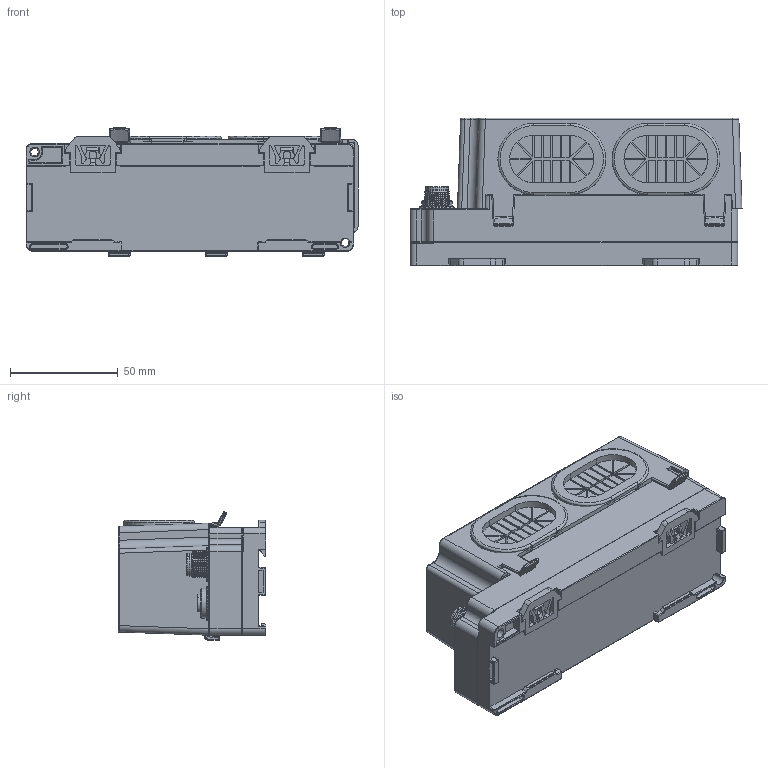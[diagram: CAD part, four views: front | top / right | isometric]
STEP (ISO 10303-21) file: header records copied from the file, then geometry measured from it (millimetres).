
FILE_DESCRIPTION((''),'2;1');
FILE_NAME('IOL5B','2026-05-28T16:28:42',('Administrator'),(''),'CREO PARAMETRIC BY PTC INC, 2022073','CREO PARAMETRIC BY PTC INC, 2022073','');
FILE_SCHEMA(('AUTOMOTIVE_DESIGN { 1 0 10303 214 1 1 1 1 }'));
Products named in the file (1): IOL5B
Bounding box: 154 x 68.5 x 59.9 mm (x, y, z)
Surface area: 84147.6 mm2 (no closed solid volume)
Topology: 0 solids, 89 shells, 1299 faces, 4253 edges, 3048 vertices
Faces by surface type: plane 569, cylinder 476, bspline 72, sphere 63, cone 61, torus 58
Entity records: 66164 total; most frequent: CARTESIAN_POINT 23209, DIRECTION 7221, ORIENTED_EDGE 7178, EDGE_CURVE 4245, VERTEX_POINT 3048, VECTOR 2535, LINE 2535, AXIS2_PLACEMENT_3D 2343
